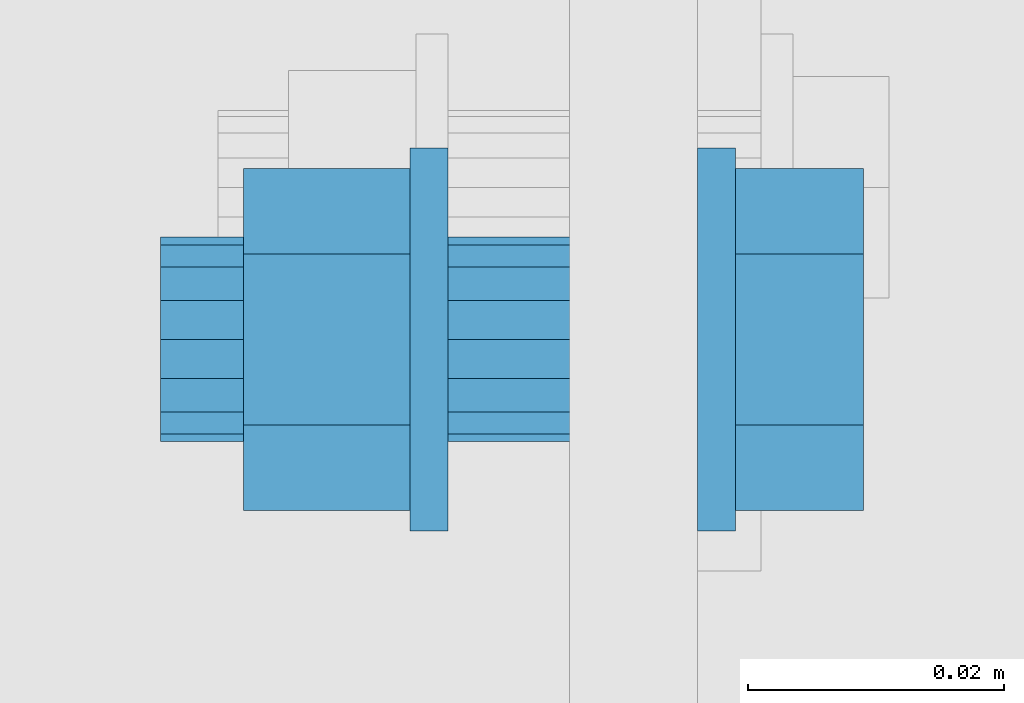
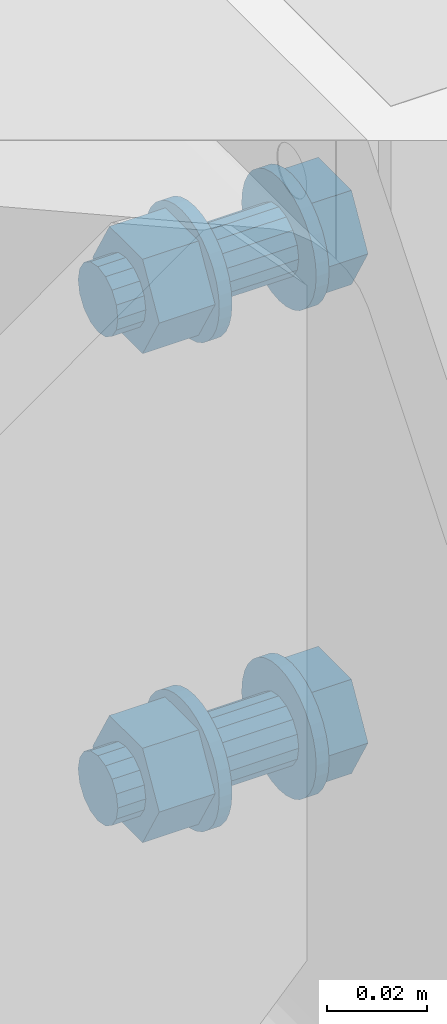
# One storey, part 353 of 821: 1 mechanical fastener.
"""IFC2X3 building model written with IfcOpenShell, lengths in millimetres."""

from ifc_helpers import new_model, entity, si_unit, converted_unit, origin_with_axes, place, context, project, spatial, faceted_brep, element, save


model = new_model("IFC2X3")

# Units and contexts
model_context = context("Model", 3, precision=1e-09, world=origin_with_axes())
ifc_project = project(units=[si_unit("LENGTHUNIT", "METRE", prefix="MILLI"), si_unit("AREAUNIT", "SQUARE_METRE"), si_unit("VOLUMEUNIT", "CUBIC_METRE"), converted_unit("PLANEANGLEUNIT", "DEGREE", entity("IfcPlaneAngleMeasure", 0.01745329), si_unit("PLANEANGLEUNIT", "RADIAN"), dimensions=[0, 0, 0, 0, 0, 0, 0])], contexts=[model_context])

# Site, building, storey
site_placement = place(None, origin_with_axes())
site = spatial("IfcSite", under=ifc_project, at=site_placement, Name="Cnopf'sche Kinderklinik", CompositionType="ELEMENT")
building_placement = place(site_placement, origin_with_axes())
building = spatial("IfcBuilding", under=site, at=building_placement, Name="Struktur 1", CompositionType="ELEMENT")
storey_placement = place(building_placement, origin_with_axes())
storey = spatial("IfcBuildingStorey", under=building, at=storey_placement, Name="Default Storey", CompositionType="ELEMENT", Elevation=0.0)

# Mechanical fastener
mechanical_fastener_placement = place(None, origin_with_axes())
element("IfcMechanicalFastener", 1, at=mechanical_fastener_placement, inside=storey, ObjectType="Bolt#2", NominalDiameter=16.0, NominalLength=45.0, context=model_context, shape_type="Brep", body=[
    faceted_brep([(3331.713402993, 7351.736971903, 7245.0), (3334.713402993, 7351.736971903, 7245.0), (3334.713402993, 7348.810617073, 7245.288220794), (3331.713402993, 7348.810617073, 7245.288220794), (3334.713402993, 7345.996720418, 7246.141807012), (3331.713402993, 7345.996720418, 7246.141807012), (3334.713402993, 7343.403418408, 7247.527955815), (3331.713402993, 7343.403418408, 7247.527955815), (3334.713402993, 7341.130370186, 7249.393398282), (3331.713402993, 7341.130370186, 7249.393398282), (3334.713402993, 7339.264927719, 7251.666446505), (3331.713402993, 7339.264927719, 7251.666446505), (3334.713402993, 7337.878778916, 7254.259748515), (3331.713402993, 7337.878778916, 7254.259748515), (3334.713402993, 7337.025192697, 7257.07364517), (3331.713402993, 7337.025192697, 7257.07364517), (3334.713402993, 7336.736971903, 7260.0), (3331.713402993, 7336.736971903, 7260.0), (3334.713402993, 7337.025192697, 7262.92635483), (3331.713402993, 7337.025192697, 7262.92635483), (3334.713402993, 7337.878778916, 7265.740251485), (3331.713402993, 7337.878778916, 7265.740251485), (3334.713402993, 7339.264927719, 7268.333553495), (3331.713402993, 7339.264927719, 7268.333553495), (3334.713402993, 7341.130370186, 7270.606601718), (3331.713402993, 7341.130370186, 7270.606601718), (3334.713402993, 7343.403418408, 7272.472044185), (3331.713402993, 7343.403418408, 7272.472044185), (3334.713402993, 7345.996720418, 7273.858192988), (3331.713402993, 7345.996720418, 7273.858192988), (3334.713402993, 7348.810617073, 7274.711779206), (3331.713402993, 7348.810617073, 7274.711779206), (3334.713402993, 7351.736971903, 7275.0), (3331.713402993, 7351.736971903, 7275.0), (3334.713402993, 7354.663326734, 7274.711779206), (3331.713402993, 7354.663326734, 7274.711779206), (3334.713402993, 7357.477223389, 7273.858192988), (3331.713402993, 7357.477223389, 7273.858192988), (3334.713402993, 7360.070525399, 7272.472044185), (3331.713402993, 7360.070525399, 7272.472044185), (3334.713402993, 7362.343573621, 7270.606601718), (3331.713402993, 7362.343573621, 7270.606601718), (3334.713402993, 7364.209016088, 7268.333553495), (3331.713402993, 7364.209016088, 7268.333553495), (3334.713402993, 7365.595164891, 7265.740251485), (3331.713402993, 7365.595164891, 7265.740251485), (3334.713402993, 7366.448751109, 7262.92635483), (3331.713402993, 7366.448751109, 7262.92635483), (3334.713402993, 7366.736971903, 7260.0), (3331.713402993, 7366.736971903, 7260.0), (3334.713402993, 7366.448751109, 7257.07364517), (3331.713402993, 7366.448751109, 7257.07364517), (3334.713402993, 7365.595164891, 7254.259748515), (3331.713402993, 7365.595164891, 7254.259748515), (3334.713402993, 7364.209016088, 7251.666446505), (3331.713402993, 7364.209016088, 7251.666446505), (3334.713402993, 7362.343573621, 7249.393398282), (3331.713402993, 7362.343573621, 7249.393398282), (3334.713402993, 7360.070525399, 7247.527955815), (3331.713402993, 7360.070525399, 7247.527955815), (3334.713402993, 7357.477223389, 7246.141807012), (3331.713402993, 7357.477223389, 7246.141807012), (3334.713402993, 7354.663326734, 7245.288220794), (3331.713402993, 7354.663326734, 7245.288220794)], [[[0, 1, 2, 3]], [[3, 2, 4, 5]], [[5, 4, 6, 7]], [[7, 6, 8, 9]], [[9, 8, 10, 11]], [[11, 10, 12, 13]], [[13, 12, 14, 15]], [[15, 14, 16, 17]], [[17, 16, 18, 19]], [[19, 18, 20, 21]], [[21, 20, 22, 23]], [[23, 22, 24, 25]], [[25, 24, 26, 27]], [[27, 26, 28, 29]], [[29, 28, 30, 31]], [[31, 30, 32, 33]], [[33, 32, 34, 35]], [[35, 34, 36, 37]], [[37, 36, 38, 39]], [[39, 38, 40, 41]], [[41, 40, 42, 43]], [[43, 42, 44, 45]], [[45, 44, 46, 47]], [[47, 46, 48, 49]], [[49, 48, 50, 51]], [[51, 50, 52, 53]], [[53, 52, 54, 55]], [[55, 54, 56, 57]], [[57, 56, 58, 59]], [[59, 58, 60, 61]], [[61, 60, 62, 63]], [[63, 62, 1, 0]], [[2, 1, 62, 60, 58, 56, 54, 52, 50, 48, 46, 44, 42, 40, 38, 36, 34, 32, 30, 28, 26, 24, 22, 20, 18, 16, 14, 12, 10, 8, 6, 4]], [[63, 0, 3, 5, 7, 9, 11, 13, 15, 17, 19, 21, 23, 25, 27, 29, 31, 33, 35, 37, 39, 41, 43, 45, 47, 49, 51, 53, 55, 57, 59, 61]]]),
    faceted_brep([(3331.713402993, 7351.736971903, 7125.0), (3334.713402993, 7351.736971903, 7125.0), (3334.713402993, 7348.810617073, 7125.288220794), (3331.713402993, 7348.810617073, 7125.288220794), (3334.713402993, 7345.996720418, 7126.141807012), (3331.713402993, 7345.996720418, 7126.141807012), (3334.713402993, 7343.403418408, 7127.527955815), (3331.713402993, 7343.403418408, 7127.527955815), (3334.713402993, 7341.130370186, 7129.393398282), (3331.713402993, 7341.130370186, 7129.393398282), (3334.713402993, 7339.264927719, 7131.666446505), (3331.713402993, 7339.264927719, 7131.666446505), (3334.713402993, 7337.878778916, 7134.259748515), (3331.713402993, 7337.878778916, 7134.259748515), (3334.713402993, 7337.025192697, 7137.07364517), (3331.713402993, 7337.025192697, 7137.07364517), (3334.713402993, 7336.736971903, 7140.0), (3331.713402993, 7336.736971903, 7140.0), (3334.713402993, 7337.025192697, 7142.92635483), (3331.713402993, 7337.025192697, 7142.92635483), (3334.713402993, 7337.878778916, 7145.740251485), (3331.713402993, 7337.878778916, 7145.740251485), (3334.713402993, 7339.264927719, 7148.333553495), (3331.713402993, 7339.264927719, 7148.333553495), (3334.713402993, 7341.130370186, 7150.606601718), (3331.713402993, 7341.130370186, 7150.606601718), (3334.713402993, 7343.403418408, 7152.472044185), (3331.713402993, 7343.403418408, 7152.472044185), (3334.713402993, 7345.996720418, 7153.858192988), (3331.713402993, 7345.996720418, 7153.858192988), (3334.713402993, 7348.810617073, 7154.711779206), (3331.713402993, 7348.810617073, 7154.711779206), (3334.713402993, 7351.736971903, 7155.0), (3331.713402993, 7351.736971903, 7155.0), (3334.713402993, 7354.663326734, 7154.711779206), (3331.713402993, 7354.663326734, 7154.711779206), (3334.713402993, 7357.477223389, 7153.858192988), (3331.713402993, 7357.477223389, 7153.858192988), (3334.713402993, 7360.070525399, 7152.472044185), (3331.713402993, 7360.070525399, 7152.472044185), (3334.713402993, 7362.343573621, 7150.606601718), (3331.713402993, 7362.343573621, 7150.606601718), (3334.713402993, 7364.209016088, 7148.333553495), (3331.713402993, 7364.209016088, 7148.333553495), (3334.713402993, 7365.595164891, 7145.740251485), (3331.713402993, 7365.595164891, 7145.740251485), (3334.713402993, 7366.448751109, 7142.92635483), (3331.713402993, 7366.448751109, 7142.92635483), (3334.713402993, 7366.736971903, 7140.0), (3331.713402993, 7366.736971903, 7140.0), (3334.713402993, 7366.448751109, 7137.07364517), (3331.713402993, 7366.448751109, 7137.07364517), (3334.713402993, 7365.595164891, 7134.259748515), (3331.713402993, 7365.595164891, 7134.259748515), (3334.713402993, 7364.209016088, 7131.666446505), (3331.713402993, 7364.209016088, 7131.666446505), (3334.713402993, 7362.343573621, 7129.393398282), (3331.713402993, 7362.343573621, 7129.393398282), (3334.713402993, 7360.070525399, 7127.527955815), (3331.713402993, 7360.070525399, 7127.527955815), (3334.713402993, 7357.477223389, 7126.141807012), (3331.713402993, 7357.477223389, 7126.141807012), (3334.713402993, 7354.663326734, 7125.288220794), (3331.713402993, 7354.663326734, 7125.288220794)], [[[0, 1, 2, 3]], [[3, 2, 4, 5]], [[5, 4, 6, 7]], [[7, 6, 8, 9]], [[9, 8, 10, 11]], [[11, 10, 12, 13]], [[13, 12, 14, 15]], [[15, 14, 16, 17]], [[17, 16, 18, 19]], [[19, 18, 20, 21]], [[21, 20, 22, 23]], [[23, 22, 24, 25]], [[25, 24, 26, 27]], [[27, 26, 28, 29]], [[29, 28, 30, 31]], [[31, 30, 32, 33]], [[33, 32, 34, 35]], [[35, 34, 36, 37]], [[37, 36, 38, 39]], [[39, 38, 40, 41]], [[41, 40, 42, 43]], [[43, 42, 44, 45]], [[45, 44, 46, 47]], [[47, 46, 48, 49]], [[49, 48, 50, 51]], [[51, 50, 52, 53]], [[53, 52, 54, 55]], [[55, 54, 56, 57]], [[57, 56, 58, 59]], [[59, 58, 60, 61]], [[61, 60, 62, 63]], [[63, 62, 1, 0]], [[2, 1, 62, 60, 58, 56, 54, 52, 50, 48, 46, 44, 42, 40, 38, 36, 34, 32, 30, 28, 26, 24, 22, 20, 18, 16, 14, 12, 10, 8, 6, 4]], [[63, 0, 3, 5, 7, 9, 11, 13, 15, 17, 19, 21, 23, 25, 27, 29, 31, 33, 35, 37, 39, 41, 43, 45, 47, 49, 51, 53, 55, 57, 59, 61]]]),
    faceted_brep([(3344.713402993, 7345.049471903, 7271.583089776), (3334.713402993, 7345.049471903, 7271.583089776), (3334.713402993, 7338.361971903, 7260.0), (3344.713402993, 7338.361971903, 7260.0), (3334.713402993, 7345.049471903, 7248.416910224), (3344.713402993, 7345.049471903, 7248.416910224), (3334.713402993, 7358.424471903, 7248.416910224), (3344.713402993, 7358.424471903, 7248.416910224), (3334.713402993, 7365.111971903, 7260.0), (3344.713402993, 7365.111971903, 7260.0), (3334.713402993, 7358.424471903, 7271.583089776), (3344.713402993, 7358.424471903, 7271.583089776)], [[[0, 1, 2, 3]], [[3, 2, 4, 5]], [[5, 4, 6, 7]], [[7, 6, 8, 9]], [[9, 8, 10, 11]], [[11, 10, 1, 0]], [[3, 5, 7, 9, 11, 0]], [[2, 1, 10, 8, 6, 4]]]),
    faceted_brep([(3344.713402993, 7345.049471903, 7151.583089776), (3334.713402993, 7345.049471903, 7151.583089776), (3334.713402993, 7338.361971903, 7140.0), (3344.713402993, 7338.361971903, 7140.0), (3334.713402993, 7345.049471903, 7128.416910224), (3344.713402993, 7345.049471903, 7128.416910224), (3334.713402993, 7358.424471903, 7128.416910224), (3344.713402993, 7358.424471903, 7128.416910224), (3334.713402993, 7365.111971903, 7140.0), (3344.713402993, 7365.111971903, 7140.0), (3334.713402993, 7358.424471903, 7151.583089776), (3344.713402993, 7358.424471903, 7151.583089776)], [[[0, 1, 2, 3]], [[3, 2, 4, 5]], [[5, 4, 6, 7]], [[7, 6, 8, 9]], [[9, 8, 10, 11]], [[11, 10, 1, 0]], [[3, 5, 7, 9, 11, 0]], [[2, 1, 10, 8, 6, 4]]]),
    faceted_brep([(3312.213402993, 7351.736971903, 7252.0), (3331.713402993, 7351.736971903, 7252.0), (3331.713402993, 7348.675504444, 7252.60896374), (3312.213402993, 7348.675504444, 7252.60896374), (3331.713402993, 7346.080117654, 7254.343145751), (3312.213402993, 7346.080117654, 7254.343145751), (3331.713402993, 7344.345935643, 7256.938532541), (3312.213402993, 7344.345935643, 7256.938532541), (3331.713402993, 7343.736971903, 7260.0), (3312.213402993, 7343.736971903, 7260.0), (3331.713402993, 7344.345935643, 7263.061467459), (3312.213402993, 7344.345935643, 7263.061467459), (3331.713402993, 7346.080117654, 7265.656854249), (3312.213402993, 7346.080117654, 7265.656854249), (3331.713402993, 7348.675504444, 7267.39103626), (3312.213402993, 7348.675504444, 7267.39103626), (3331.713402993, 7351.736971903, 7268.0), (3312.213402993, 7351.736971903, 7268.0), (3331.713402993, 7354.798439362, 7267.39103626), (3312.213402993, 7354.798439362, 7267.39103626), (3331.713402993, 7357.393826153, 7265.656854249), (3312.213402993, 7357.393826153, 7265.656854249), (3331.713402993, 7359.128008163, 7263.061467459), (3312.213402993, 7359.128008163, 7263.061467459), (3331.713402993, 7359.736971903, 7260.0), (3312.213402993, 7359.736971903, 7260.0), (3331.713402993, 7359.128008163, 7256.938532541), (3312.213402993, 7359.128008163, 7256.938532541), (3331.713402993, 7357.393826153, 7254.343145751), (3312.213402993, 7357.393826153, 7254.343145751), (3331.713402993, 7354.798439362, 7252.60896374), (3312.213402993, 7354.798439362, 7252.60896374)], [[[0, 1, 2, 3]], [[3, 2, 4, 5]], [[5, 4, 6, 7]], [[7, 6, 8, 9]], [[9, 8, 10, 11]], [[11, 10, 12, 13]], [[13, 12, 14, 15]], [[15, 14, 16, 17]], [[17, 16, 18, 19]], [[19, 18, 20, 21]], [[21, 20, 22, 23]], [[23, 22, 24, 25]], [[25, 24, 26, 27]], [[27, 26, 28, 29]], [[29, 28, 30, 31]], [[31, 30, 1, 0]], [[2, 1, 30, 28, 26, 24, 22, 20, 18, 16, 14, 12, 10, 8, 6, 4]], [[31, 0, 3, 5, 7, 9, 11, 13, 15, 17, 19, 21, 23, 25, 27, 29]]]),
    faceted_brep([(3312.213402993, 7351.736971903, 7132.0), (3331.713402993, 7351.736971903, 7132.0), (3331.713402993, 7348.675504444, 7132.60896374), (3312.213402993, 7348.675504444, 7132.60896374), (3331.713402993, 7346.080117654, 7134.343145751), (3312.213402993, 7346.080117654, 7134.343145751), (3331.713402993, 7344.345935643, 7136.938532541), (3312.213402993, 7344.345935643, 7136.938532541), (3331.713402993, 7343.736971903, 7140.0), (3312.213402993, 7343.736971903, 7140.0), (3331.713402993, 7344.345935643, 7143.061467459), (3312.213402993, 7344.345935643, 7143.061467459), (3331.713402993, 7346.080117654, 7145.656854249), (3312.213402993, 7346.080117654, 7145.656854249), (3331.713402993, 7348.675504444, 7147.39103626), (3312.213402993, 7348.675504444, 7147.39103626), (3331.713402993, 7351.736971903, 7148.0), (3312.213402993, 7351.736971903, 7148.0), (3331.713402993, 7354.798439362, 7147.39103626), (3312.213402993, 7354.798439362, 7147.39103626), (3331.713402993, 7357.393826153, 7145.656854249), (3312.213402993, 7357.393826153, 7145.656854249), (3331.713402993, 7359.128008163, 7143.061467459), (3312.213402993, 7359.128008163, 7143.061467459), (3331.713402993, 7359.736971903, 7140.0), (3312.213402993, 7359.736971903, 7140.0), (3331.713402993, 7359.128008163, 7136.938532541), (3312.213402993, 7359.128008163, 7136.938532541), (3331.713402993, 7357.393826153, 7134.343145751), (3312.213402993, 7357.393826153, 7134.343145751), (3331.713402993, 7354.798439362, 7132.60896374), (3312.213402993, 7354.798439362, 7132.60896374)], [[[0, 1, 2, 3]], [[3, 2, 4, 5]], [[5, 4, 6, 7]], [[7, 6, 8, 9]], [[9, 8, 10, 11]], [[11, 10, 12, 13]], [[13, 12, 14, 15]], [[15, 14, 16, 17]], [[17, 16, 18, 19]], [[19, 18, 20, 21]], [[21, 20, 22, 23]], [[23, 22, 24, 25]], [[25, 24, 26, 27]], [[27, 26, 28, 29]], [[29, 28, 30, 31]], [[31, 30, 1, 0]], [[2, 1, 30, 28, 26, 24, 22, 20, 18, 16, 14, 12, 10, 8, 6, 4]], [[31, 0, 3, 5, 7, 9, 11, 13, 15, 17, 19, 21, 23, 25, 27, 29]]]),
    faceted_brep([(3309.213402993, 7351.736971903, 7245.0), (3312.213402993, 7351.736971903, 7245.0), (3312.213402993, 7348.810617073, 7245.288220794), (3309.213402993, 7348.810617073, 7245.288220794), (3312.213402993, 7345.996720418, 7246.141807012), (3309.213402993, 7345.996720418, 7246.141807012), (3312.213402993, 7343.403418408, 7247.527955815), (3309.213402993, 7343.403418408, 7247.527955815), (3312.213402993, 7341.130370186, 7249.393398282), (3309.213402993, 7341.130370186, 7249.393398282), (3312.213402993, 7339.264927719, 7251.666446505), (3309.213402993, 7339.264927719, 7251.666446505), (3312.213402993, 7337.878778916, 7254.259748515), (3309.213402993, 7337.878778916, 7254.259748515), (3312.213402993, 7337.025192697, 7257.07364517), (3309.213402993, 7337.025192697, 7257.07364517), (3312.213402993, 7336.736971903, 7260.0), (3309.213402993, 7336.736971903, 7260.0), (3312.213402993, 7337.025192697, 7262.92635483), (3309.213402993, 7337.025192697, 7262.92635483), (3312.213402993, 7337.878778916, 7265.740251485), (3309.213402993, 7337.878778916, 7265.740251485), (3312.213402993, 7339.264927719, 7268.333553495), (3309.213402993, 7339.264927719, 7268.333553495), (3312.213402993, 7341.130370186, 7270.606601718), (3309.213402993, 7341.130370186, 7270.606601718), (3312.213402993, 7343.403418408, 7272.472044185), (3309.213402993, 7343.403418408, 7272.472044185), (3312.213402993, 7345.996720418, 7273.858192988), (3309.213402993, 7345.996720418, 7273.858192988), (3312.213402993, 7348.810617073, 7274.711779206), (3309.213402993, 7348.810617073, 7274.711779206), (3312.213402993, 7351.736971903, 7275.0), (3309.213402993, 7351.736971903, 7275.0), (3312.213402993, 7354.663326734, 7274.711779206), (3309.213402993, 7354.663326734, 7274.711779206), (3312.213402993, 7357.477223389, 7273.858192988), (3309.213402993, 7357.477223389, 7273.858192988), (3312.213402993, 7360.070525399, 7272.472044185), (3309.213402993, 7360.070525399, 7272.472044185), (3312.213402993, 7362.343573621, 7270.606601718), (3309.213402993, 7362.343573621, 7270.606601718), (3312.213402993, 7364.209016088, 7268.333553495), (3309.213402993, 7364.209016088, 7268.333553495), (3312.213402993, 7365.595164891, 7265.740251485), (3309.213402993, 7365.595164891, 7265.740251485), (3312.213402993, 7366.448751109, 7262.92635483), (3309.213402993, 7366.448751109, 7262.92635483), (3312.213402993, 7366.736971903, 7260.0), (3309.213402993, 7366.736971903, 7260.0), (3312.213402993, 7366.448751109, 7257.07364517), (3309.213402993, 7366.448751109, 7257.07364517), (3312.213402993, 7365.595164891, 7254.259748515), (3309.213402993, 7365.595164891, 7254.259748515), (3312.213402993, 7364.209016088, 7251.666446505), (3309.213402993, 7364.209016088, 7251.666446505), (3312.213402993, 7362.343573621, 7249.393398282), (3309.213402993, 7362.343573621, 7249.393398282), (3312.213402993, 7360.070525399, 7247.527955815), (3309.213402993, 7360.070525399, 7247.527955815), (3312.213402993, 7357.477223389, 7246.141807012), (3309.213402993, 7357.477223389, 7246.141807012), (3312.213402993, 7354.663326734, 7245.288220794), (3309.213402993, 7354.663326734, 7245.288220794)], [[[0, 1, 2, 3]], [[3, 2, 4, 5]], [[5, 4, 6, 7]], [[7, 6, 8, 9]], [[9, 8, 10, 11]], [[11, 10, 12, 13]], [[13, 12, 14, 15]], [[15, 14, 16, 17]], [[17, 16, 18, 19]], [[19, 18, 20, 21]], [[21, 20, 22, 23]], [[23, 22, 24, 25]], [[25, 24, 26, 27]], [[27, 26, 28, 29]], [[29, 28, 30, 31]], [[31, 30, 32, 33]], [[33, 32, 34, 35]], [[35, 34, 36, 37]], [[37, 36, 38, 39]], [[39, 38, 40, 41]], [[41, 40, 42, 43]], [[43, 42, 44, 45]], [[45, 44, 46, 47]], [[47, 46, 48, 49]], [[49, 48, 50, 51]], [[51, 50, 52, 53]], [[53, 52, 54, 55]], [[55, 54, 56, 57]], [[57, 56, 58, 59]], [[59, 58, 60, 61]], [[61, 60, 62, 63]], [[63, 62, 1, 0]], [[2, 1, 62, 60, 58, 56, 54, 52, 50, 48, 46, 44, 42, 40, 38, 36, 34, 32, 30, 28, 26, 24, 22, 20, 18, 16, 14, 12, 10, 8, 6, 4]], [[63, 0, 3, 5, 7, 9, 11, 13, 15, 17, 19, 21, 23, 25, 27, 29, 31, 33, 35, 37, 39, 41, 43, 45, 47, 49, 51, 53, 55, 57, 59, 61]]]),
    faceted_brep([(3309.213402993, 7351.736971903, 7125.0), (3312.213402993, 7351.736971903, 7125.0), (3312.213402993, 7348.810617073, 7125.288220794), (3309.213402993, 7348.810617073, 7125.288220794), (3312.213402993, 7345.996720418, 7126.141807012), (3309.213402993, 7345.996720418, 7126.141807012), (3312.213402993, 7343.403418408, 7127.527955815), (3309.213402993, 7343.403418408, 7127.527955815), (3312.213402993, 7341.130370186, 7129.393398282), (3309.213402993, 7341.130370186, 7129.393398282), (3312.213402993, 7339.264927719, 7131.666446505), (3309.213402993, 7339.264927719, 7131.666446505), (3312.213402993, 7337.878778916, 7134.259748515), (3309.213402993, 7337.878778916, 7134.259748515), (3312.213402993, 7337.025192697, 7137.07364517), (3309.213402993, 7337.025192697, 7137.07364517), (3312.213402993, 7336.736971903, 7140.0), (3309.213402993, 7336.736971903, 7140.0), (3312.213402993, 7337.025192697, 7142.92635483), (3309.213402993, 7337.025192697, 7142.92635483), (3312.213402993, 7337.878778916, 7145.740251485), (3309.213402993, 7337.878778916, 7145.740251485), (3312.213402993, 7339.264927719, 7148.333553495), (3309.213402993, 7339.264927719, 7148.333553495), (3312.213402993, 7341.130370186, 7150.606601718), (3309.213402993, 7341.130370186, 7150.606601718), (3312.213402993, 7343.403418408, 7152.472044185), (3309.213402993, 7343.403418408, 7152.472044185), (3312.213402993, 7345.996720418, 7153.858192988), (3309.213402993, 7345.996720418, 7153.858192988), (3312.213402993, 7348.810617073, 7154.711779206), (3309.213402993, 7348.810617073, 7154.711779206), (3312.213402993, 7351.736971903, 7155.0), (3309.213402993, 7351.736971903, 7155.0), (3312.213402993, 7354.663326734, 7154.711779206), (3309.213402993, 7354.663326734, 7154.711779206), (3312.213402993, 7357.477223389, 7153.858192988), (3309.213402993, 7357.477223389, 7153.858192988), (3312.213402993, 7360.070525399, 7152.472044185), (3309.213402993, 7360.070525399, 7152.472044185), (3312.213402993, 7362.343573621, 7150.606601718), (3309.213402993, 7362.343573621, 7150.606601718), (3312.213402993, 7364.209016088, 7148.333553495), (3309.213402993, 7364.209016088, 7148.333553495), (3312.213402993, 7365.595164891, 7145.740251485), (3309.213402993, 7365.595164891, 7145.740251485), (3312.213402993, 7366.448751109, 7142.92635483), (3309.213402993, 7366.448751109, 7142.92635483), (3312.213402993, 7366.736971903, 7140.0), (3309.213402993, 7366.736971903, 7140.0), (3312.213402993, 7366.448751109, 7137.07364517), (3309.213402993, 7366.448751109, 7137.07364517), (3312.213402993, 7365.595164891, 7134.259748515), (3309.213402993, 7365.595164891, 7134.259748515), (3312.213402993, 7364.209016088, 7131.666446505), (3309.213402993, 7364.209016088, 7131.666446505), (3312.213402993, 7362.343573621, 7129.393398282), (3309.213402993, 7362.343573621, 7129.393398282), (3312.213402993, 7360.070525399, 7127.527955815), (3309.213402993, 7360.070525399, 7127.527955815), (3312.213402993, 7357.477223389, 7126.141807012), (3309.213402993, 7357.477223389, 7126.141807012), (3312.213402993, 7354.663326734, 7125.288220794), (3309.213402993, 7354.663326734, 7125.288220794)], [[[0, 1, 2, 3]], [[3, 2, 4, 5]], [[5, 4, 6, 7]], [[7, 6, 8, 9]], [[9, 8, 10, 11]], [[11, 10, 12, 13]], [[13, 12, 14, 15]], [[15, 14, 16, 17]], [[17, 16, 18, 19]], [[19, 18, 20, 21]], [[21, 20, 22, 23]], [[23, 22, 24, 25]], [[25, 24, 26, 27]], [[27, 26, 28, 29]], [[29, 28, 30, 31]], [[31, 30, 32, 33]], [[33, 32, 34, 35]], [[35, 34, 36, 37]], [[37, 36, 38, 39]], [[39, 38, 40, 41]], [[41, 40, 42, 43]], [[43, 42, 44, 45]], [[45, 44, 46, 47]], [[47, 46, 48, 49]], [[49, 48, 50, 51]], [[51, 50, 52, 53]], [[53, 52, 54, 55]], [[55, 54, 56, 57]], [[57, 56, 58, 59]], [[59, 58, 60, 61]], [[61, 60, 62, 63]], [[63, 62, 1, 0]], [[2, 1, 62, 60, 58, 56, 54, 52, 50, 48, 46, 44, 42, 40, 38, 36, 34, 32, 30, 28, 26, 24, 22, 20, 18, 16, 14, 12, 10, 8, 6, 4]], [[63, 0, 3, 5, 7, 9, 11, 13, 15, 17, 19, 21, 23, 25, 27, 29, 31, 33, 35, 37, 39, 41, 43, 45, 47, 49, 51, 53, 55, 57, 59, 61]]]),
    faceted_brep([(3309.213402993, 7345.049471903, 7271.583089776), (3296.213402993, 7345.049471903, 7271.583089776), (3296.213402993, 7338.361971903, 7260.0), (3309.213402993, 7338.361971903, 7260.0), (3296.213402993, 7345.049471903, 7248.416910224), (3309.213402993, 7345.049471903, 7248.416910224), (3296.213402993, 7358.424471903, 7248.416910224), (3309.213402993, 7358.424471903, 7248.416910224), (3296.213402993, 7365.111971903, 7260.0), (3309.213402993, 7365.111971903, 7260.0), (3296.213402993, 7358.424471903, 7271.583089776), (3309.213402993, 7358.424471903, 7271.583089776)], [[[0, 1, 2, 3]], [[3, 2, 4, 5]], [[5, 4, 6, 7]], [[7, 6, 8, 9]], [[9, 8, 10, 11]], [[11, 10, 1, 0]], [[3, 5, 7, 9, 11, 0]], [[2, 1, 10, 8, 6, 4]]]),
    faceted_brep([(3309.213402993, 7345.049471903, 7151.583089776), (3296.213402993, 7345.049471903, 7151.583089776), (3296.213402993, 7338.361971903, 7140.0), (3309.213402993, 7338.361971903, 7140.0), (3296.213402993, 7345.049471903, 7128.416910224), (3309.213402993, 7345.049471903, 7128.416910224), (3296.213402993, 7358.424471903, 7128.416910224), (3309.213402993, 7358.424471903, 7128.416910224), (3296.213402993, 7365.111971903, 7140.0), (3309.213402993, 7365.111971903, 7140.0), (3296.213402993, 7358.424471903, 7151.583089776), (3309.213402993, 7358.424471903, 7151.583089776)], [[[0, 1, 2, 3]], [[3, 2, 4, 5]], [[5, 4, 6, 7]], [[7, 6, 8, 9]], [[9, 8, 10, 11]], [[11, 10, 1, 0]], [[3, 5, 7, 9, 11, 0]], [[2, 1, 10, 8, 6, 4]]]),
    faceted_brep([(3289.713402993, 7351.736971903, 7252.0), (3296.213402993, 7351.736971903, 7252.0), (3296.213402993, 7348.675504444, 7252.60896374), (3289.713402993, 7348.675504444, 7252.60896374), (3296.213402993, 7346.080117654, 7254.343145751), (3289.713402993, 7346.080117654, 7254.343145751), (3296.213402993, 7344.345935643, 7256.938532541), (3289.713402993, 7344.345935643, 7256.938532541), (3296.213402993, 7343.736971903, 7260.0), (3289.713402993, 7343.736971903, 7260.0), (3296.213402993, 7344.345935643, 7263.061467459), (3289.713402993, 7344.345935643, 7263.061467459), (3296.213402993, 7346.080117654, 7265.656854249), (3289.713402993, 7346.080117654, 7265.656854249), (3296.213402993, 7348.675504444, 7267.39103626), (3289.713402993, 7348.675504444, 7267.39103626), (3296.213402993, 7351.736971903, 7268.0), (3289.713402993, 7351.736971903, 7268.0), (3296.213402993, 7354.798439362, 7267.39103626), (3289.713402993, 7354.798439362, 7267.39103626), (3296.213402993, 7357.393826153, 7265.656854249), (3289.713402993, 7357.393826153, 7265.656854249), (3296.213402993, 7359.128008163, 7263.061467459), (3289.713402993, 7359.128008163, 7263.061467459), (3296.213402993, 7359.736971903, 7260.0), (3289.713402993, 7359.736971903, 7260.0), (3296.213402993, 7359.128008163, 7256.938532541), (3289.713402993, 7359.128008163, 7256.938532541), (3296.213402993, 7357.393826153, 7254.343145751), (3289.713402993, 7357.393826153, 7254.343145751), (3296.213402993, 7354.798439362, 7252.60896374), (3289.713402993, 7354.798439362, 7252.60896374)], [[[0, 1, 2, 3]], [[3, 2, 4, 5]], [[5, 4, 6, 7]], [[7, 6, 8, 9]], [[9, 8, 10, 11]], [[11, 10, 12, 13]], [[13, 12, 14, 15]], [[15, 14, 16, 17]], [[17, 16, 18, 19]], [[19, 18, 20, 21]], [[21, 20, 22, 23]], [[23, 22, 24, 25]], [[25, 24, 26, 27]], [[27, 26, 28, 29]], [[29, 28, 30, 31]], [[31, 30, 1, 0]], [[2, 1, 30, 28, 26, 24, 22, 20, 18, 16, 14, 12, 10, 8, 6, 4]], [[31, 0, 3, 5, 7, 9, 11, 13, 15, 17, 19, 21, 23, 25, 27, 29]]]),
    faceted_brep([(3289.713402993, 7351.736971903, 7132.0), (3296.213402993, 7351.736971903, 7132.0), (3296.213402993, 7348.675504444, 7132.60896374), (3289.713402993, 7348.675504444, 7132.60896374), (3296.213402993, 7346.080117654, 7134.343145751), (3289.713402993, 7346.080117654, 7134.343145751), (3296.213402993, 7344.345935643, 7136.938532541), (3289.713402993, 7344.345935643, 7136.938532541), (3296.213402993, 7343.736971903, 7140.0), (3289.713402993, 7343.736971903, 7140.0), (3296.213402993, 7344.345935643, 7143.061467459), (3289.713402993, 7344.345935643, 7143.061467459), (3296.213402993, 7346.080117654, 7145.656854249), (3289.713402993, 7346.080117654, 7145.656854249), (3296.213402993, 7348.675504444, 7147.39103626), (3289.713402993, 7348.675504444, 7147.39103626), (3296.213402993, 7351.736971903, 7148.0), (3289.713402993, 7351.736971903, 7148.0), (3296.213402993, 7354.798439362, 7147.39103626), (3289.713402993, 7354.798439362, 7147.39103626), (3296.213402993, 7357.393826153, 7145.656854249), (3289.713402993, 7357.393826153, 7145.656854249), (3296.213402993, 7359.128008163, 7143.061467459), (3289.713402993, 7359.128008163, 7143.061467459), (3296.213402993, 7359.736971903, 7140.0), (3289.713402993, 7359.736971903, 7140.0), (3296.213402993, 7359.128008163, 7136.938532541), (3289.713402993, 7359.128008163, 7136.938532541), (3296.213402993, 7357.393826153, 7134.343145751), (3289.713402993, 7357.393826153, 7134.343145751), (3296.213402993, 7354.798439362, 7132.60896374), (3289.713402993, 7354.798439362, 7132.60896374)], [[[0, 1, 2, 3]], [[3, 2, 4, 5]], [[5, 4, 6, 7]], [[7, 6, 8, 9]], [[9, 8, 10, 11]], [[11, 10, 12, 13]], [[13, 12, 14, 15]], [[15, 14, 16, 17]], [[17, 16, 18, 19]], [[19, 18, 20, 21]], [[21, 20, 22, 23]], [[23, 22, 24, 25]], [[25, 24, 26, 27]], [[27, 26, 28, 29]], [[29, 28, 30, 31]], [[31, 30, 1, 0]], [[2, 1, 30, 28, 26, 24, 22, 20, 18, 16, 14, 12, 10, 8, 6, 4]], [[31, 0, 3, 5, 7, 9, 11, 13, 15, 17, 19, 21, 23, 25, 27, 29]]]),
])

save(model, "model.ifc")
